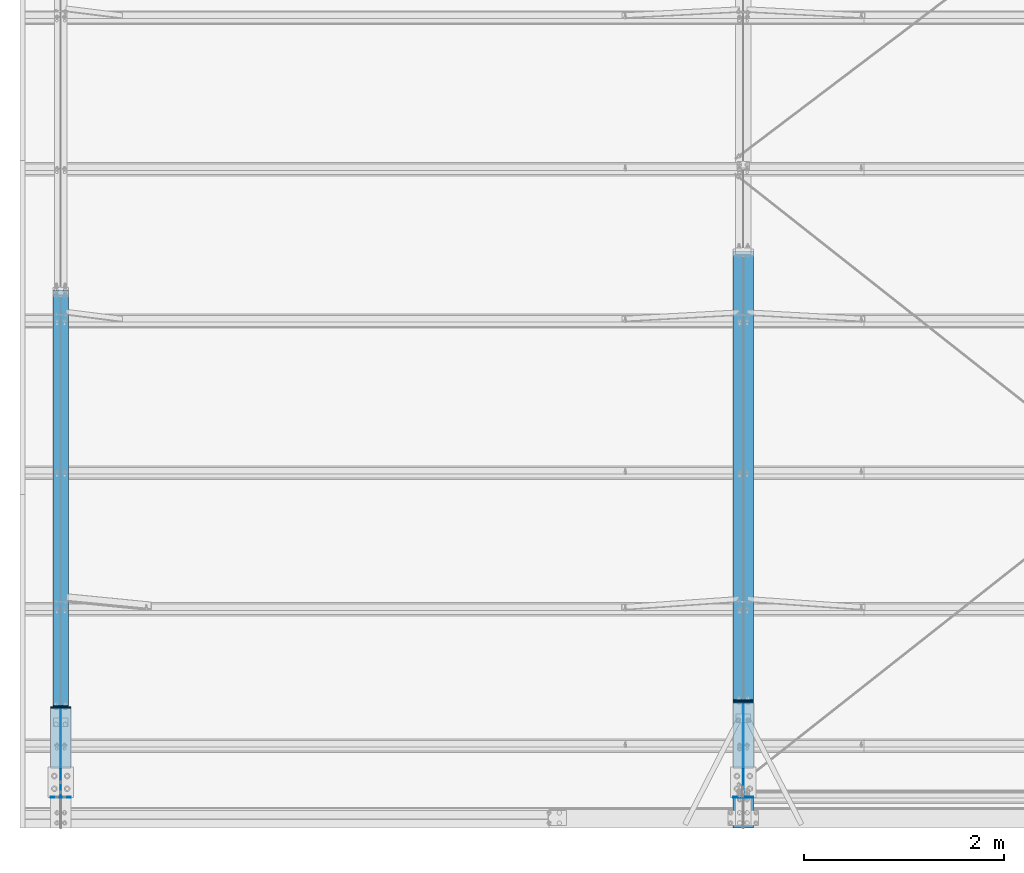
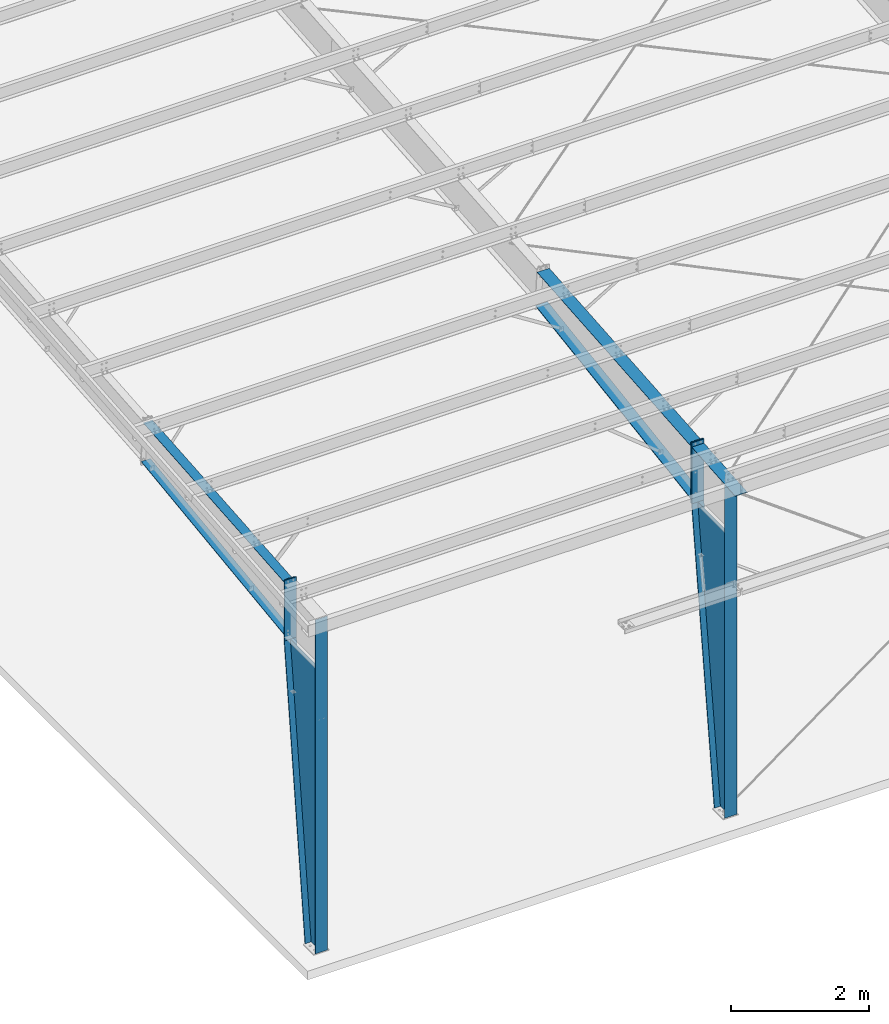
# One storey, part 50 of 185: 15 discrete accessories, 4 elements without a shape of their own.
"""IFC2X3 building model written with IfcOpenShell, lengths in millimetres."""

from ifc_helpers import new_model, si_unit, frame, origin_with_axes, origin_2d_with_axis, place, context, subcontext, project, spatial, rectangle, extrude, clip, halfspace, material, type_object, element, aggregate, save


model = new_model("IFC2X3")

# Units and contexts
model_context = context("Model", 3, precision=1e-05, world=origin_with_axes())
body_context = subcontext(model_context, "Body", "Model", "MODEL_VIEW")
ifc_project = project(units=[si_unit("LENGTHUNIT", "METRE", prefix="MILLI"), si_unit("AREAUNIT", "SQUARE_METRE"), si_unit("VOLUMEUNIT", "CUBIC_METRE"), si_unit("MASSUNIT", "GRAM", prefix="KILO"), si_unit("TIMEUNIT", "SECOND"), si_unit("PLANEANGLEUNIT", "RADIAN"), si_unit("SOLIDANGLEUNIT", "STERADIAN"), si_unit("THERMODYNAMICTEMPERATUREUNIT", "DEGREE_CELSIUS"), si_unit("LUMINOUSINTENSITYUNIT", "LUMEN")], contexts=[model_context])

# Site, building, storey
site_placement = place(None, origin_with_axes())
site = spatial("IfcSite", under=ifc_project, at=site_placement, Name="Undefined", CompositionType="ELEMENT")
building_placement = place(site_placement, origin_with_axes())
building = spatial("IfcBuilding", under=site, at=building_placement, Name="Undefined", CompositionType="ELEMENT")
storey_placement = place(building_placement, origin_with_axes())
storey = spatial("IfcBuildingStorey", under=building, at=storey_placement, Name="Undefined", CompositionType="ELEMENT", Elevation=0.0)

# Assembly, discrete accessory
assembly_1_placement = place(storey_placement, origin_with_axes())
assembly_1 = element("IfcElementAssembly", 1, at=assembly_1_placement, inside=storey, Name="Steel Assembly", AssemblyPlace="NOTDEFINED", PredefinedType="RIGID_FRAME")
ifc_material = material(Name="STEEL/55")
discrete_accessory_type_1 = type_object("IfcDiscreteAccessoryType", Name="Outside Flange")
discrete_accessory_1_placement = place(assembly_1_placement, frame((406.400000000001, 5324.06322384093, 6333.41238029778), z_axis=(1.0, 0.0, 0.0), x_axis=(0.0, -0.996545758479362, -0.0830454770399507)))
discrete_accessory_1 = element("IfcDiscreteAccessory", 2, at=discrete_accessory_1_placement, type_object=discrete_accessory_type_1, material=ifc_material, Name="Outside Flange", ObjectType="FL5/16\"X6\"", context=body_context, shape_type="SweptSolid", body=[
    extrude(rectangle(XDim=7.874, YDim=152.4, at=origin_2d_with_axis()), frame((4112.39146810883, 0.0, 0.0), z_axis=(-1.0, 0.0, 0.0), x_axis=(0.0, -1.0, 0.0)), (0.0, 0.0, 1.0), 4112.4),
])

assembly_2_placement = place(storey_placement, origin_with_axes())
assembly_2 = element("IfcElementAssembly", 3, at=assembly_2_placement, inside=storey, Name="Steel Assembly", AssemblyPlace="NOTDEFINED", PredefinedType="RIGID_FRAME")
discrete_accessory_2_placement = place(assembly_2_placement, frame((406.400000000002, 307.975000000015, 15.8749999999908), z_axis=(0.0, 0.0, 1.0), x_axis=(-1.0, 0.0, 0.0)))
discrete_accessory_2 = element("IfcDiscreteAccessory", 4, at=discrete_accessory_2_placement, type_object=discrete_accessory_type_1, material=ifc_material, Name="Outside Flange", ObjectType="FL1/4\"X8\"", context=body_context, shape_type="SweptSolid", body=[
    extrude(rectangle(XDim=6.35, YDim=203.2, at=origin_2d_with_axis()), frame((0.0, 0.0, 5895.24865466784), z_axis=(0.0, 0.0, -1.0), x_axis=(0.0, 1.0, 0.0)), (0.0, 0.0, 1.0), 5895.2),
])

assembly_3_placement = place(storey_placement, origin_with_axes())
assembly_3 = element("IfcElementAssembly", 5, at=assembly_3_placement, inside=storey, Name="Steel Assembly", AssemblyPlace="NOTDEFINED", PredefinedType="RIGID_FRAME")
discrete_accessory_3_placement = place(assembly_3_placement, frame((7239.0, 5725.77406224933, 6365.28254241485), z_axis=(1.0, 0.0, 0.0), x_axis=(0.0, -0.996545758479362, -0.0830454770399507)))
discrete_accessory_3 = element("IfcDiscreteAccessory", 6, at=discrete_accessory_3_placement, type_object=discrete_accessory_type_1, material=ifc_material, Name="Outside Flange", ObjectType="FL5/16\"X8\"", context=body_context, shape_type="SweptSolid", body=[
    extrude(rectangle(XDim=7.874, YDim=203.2, at=origin_2d_with_axis()), frame((4456.74478612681, 0.0, 0.0), z_axis=(-1.0, 0.0, 0.0), x_axis=(0.0, -1.0, 0.0)), (0.0, 0.0, 1.0), 4456.7),
])

assembly_4_placement = place(storey_placement, origin_with_axes())
assembly_4 = element("IfcElementAssembly", 7, at=assembly_4_placement, inside=storey, Name="Steel Assembly", AssemblyPlace="NOTDEFINED", PredefinedType="RIGID_FRAME")
discrete_accessory_4_placement = place(assembly_4_placement, frame((7239.0, 308.737, 15.875), z_axis=(0.0, 0.0, 1.0), x_axis=(-1.0, 0.0, 0.0)))
discrete_accessory_4 = element("IfcDiscreteAccessory", 8, at=discrete_accessory_4_placement, type_object=discrete_accessory_type_1, material=ifc_material, Name="Outside Flange", ObjectType="FL5/16\"X8\"", context=body_context, shape_type="SweptSolid", body=[
    extrude(rectangle(XDim=7.874, YDim=203.2, at=origin_2d_with_axis()), frame((0.0, 0.0, 5893.64290803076), z_axis=(0.0, 0.0, -1.0), x_axis=(0.0, 1.0, 0.0)), (0.0, 0.0, 1.0), 5893.6),
])

# Discrete accessory
discrete_accessory_type_2 = type_object("IfcDiscreteAccessoryType", Name="Inside Flange")
discrete_accessory_5_placement = place(assembly_1_placement, frame((406.399999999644, 1226.18207892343, 5066.18451539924), z_axis=(-1.0, 0.0, 0.0), x_axis=(0.0, 0.991385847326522, 0.130973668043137)))
discrete_accessory_5 = element("IfcDiscreteAccessory", 9, at=discrete_accessory_5_placement, type_object=discrete_accessory_type_2, material=ifc_material, Name="Inside Flange", ObjectType="PL3/8\"X6\"", context=body_context, shape_type="SweptSolid", body=[
    extrude(rectangle(XDim=9.652, YDim=152.4, at=origin_2d_with_axis()), frame((4193.60346189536, 9.09494701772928e-13, 0.0), z_axis=(-1.0, 0.0, 0.0), x_axis=(0.0, -1.0, 0.0)), (0.0, 0.0, 1.0), 4193.6),
])

discrete_accessory_6_placement = place(assembly_2_placement, frame((406.400000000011, 603.352772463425, 16.6387445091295), z_axis=(-1.0, 0.0, 0.0), x_axis=(0.0, 0.120274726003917, 0.992740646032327)))
discrete_accessory_6 = element("IfcDiscreteAccessory", 10, at=discrete_accessory_6_placement, type_object=discrete_accessory_type_2, material=ifc_material, Name="Inside Flange", ObjectType="FL1/2\"X8\"", context=body_context, shape_type="SweptSolid", body=[
    extrude(rectangle(XDim=12.7, YDim=203.2, at=origin_2d_with_axis()), frame((5014.13368096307, -6.95850832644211e-14, 0.0), z_axis=(-1.0, 0.0, 0.0), x_axis=(0.0, -1.0, 0.0)), (0.0, 0.0, 1.0), 5014.1),
])

discrete_accessory_7_placement = place(assembly_3_placement, frame((7238.99999999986, 1285.04641844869, 5067.34401433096), z_axis=(-1.0, 0.0, 0.0), x_axis=(0.0, 0.988758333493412, 0.149522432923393)))
discrete_accessory_7 = element("IfcDiscreteAccessory", 11, at=discrete_accessory_7_placement, type_object=discrete_accessory_type_2, material=ifc_material, Name="Inside Flange", ObjectType="FL1/2\"X8\"", context=body_context, shape_type="SweptSolid", body=[
    extrude(rectangle(XDim=12.7, YDim=203.2, at=origin_2d_with_axis()), frame((4542.9272168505, 0.0, 0.0), z_axis=(-1.0, 0.0, 0.0), x_axis=(0.0, -1.0, 0.0)), (0.0, 0.0, 1.0), 4542.9),
])

discrete_accessory_8_placement = place(assembly_4_placement, frame((7238.99999999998, 603.414073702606, 16.7042436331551), z_axis=(-1.0, 0.0, 0.0), x_axis=(0.0, 0.130589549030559, 0.991436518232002)))
discrete_accessory_8 = element("IfcDiscreteAccessory", 12, at=discrete_accessory_8_placement, type_object=discrete_accessory_type_2, material=ifc_material, Name="Inside Flange", ObjectType="FL1/2\"X8\"", context=body_context, shape_type="SweptSolid", body=[
    extrude(rectangle(XDim=12.7, YDim=203.2, at=origin_2d_with_axis()), frame((5018.43796554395, 1.39289634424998e-13, 0.0), z_axis=(-1.0, 0.0, 0.0), x_axis=(0.0, -1.0, 0.0)), (0.0, 0.0, 1.0), 5018.4),
])

discrete_accessory_type_3 = type_object("IfcDiscreteAccessoryType", Name="Web")
discrete_accessory_9_placement = place(assembly_2_placement, frame((406.400000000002, 755.650000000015, 15.8749999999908), z_axis=(0.0, 0.0, 1.0), x_axis=(0.0, -1.0, 0.0)))
discrete_accessory_9 = element("IfcDiscreteAccessory", 13, at=discrete_accessory_9_placement, type_object=discrete_accessory_type_3, material=ifc_material, Name="Web", ObjectType="PL3/16\"X35\"", context=body_context, shape_type="Clipping", body=[
    clip(extrude(rectangle(XDim=4.7625, YDim=889.0, at=origin_2d_with_axis()), frame((0.0, 0.0, 4978.67398109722), z_axis=(0.0, 0.0, -1.0), x_axis=(0.0, 1.0, 0.0)), (0.0, 0.0, 1.0), 4978.7), halfspace(frame((444.499999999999, 2.38125000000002, -2358.2652762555), z_axis=(-0.992740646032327, 0.0, -0.120274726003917), x_axis=(-0.120274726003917, 0.0, 0.992740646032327)), False)),
])

discrete_accessory_10_placement = place(assembly_4_placement, frame((7239.0, 782.574, 15.875), z_axis=(0.0, 0.0, 1.0), x_axis=(0.0, -1.0, 0.0)))
discrete_accessory_10 = element("IfcDiscreteAccessory", 14, at=discrete_accessory_10_placement, type_object=discrete_accessory_type_3, material=ifc_material, Name="Web", ObjectType="PL3/16\"X37\"", context=body_context, shape_type="Clipping", body=[
    clip(extrude(rectangle(XDim=4.7625, YDim=939.8, at=origin_2d_with_axis()), frame((0.0, 0.0, 4977.1211511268), z_axis=(0.0, 0.0, -1.0), x_axis=(0.0, 1.0, 0.0)), (0.0, 0.0, 1.0), 4977.1), halfspace(frame((-469.9, -2.38124999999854, 4977.12115112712), z_axis=(-0.991436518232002, 0.0, -0.130589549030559), x_axis=(0.130589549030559, 0.0, -0.991436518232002)), False)),
])

discrete_accessory_type_4 = type_object("IfcDiscreteAccessoryType", Name="Rafter Haunch Plate")
discrete_accessory_11_placement = place(assembly_1_placement, frame((406.400000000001, 1219.20000000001, 6061.34898359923), z_axis=(1.0, 0.0, 0.0), x_axis=(0.0, 0.0, -1.0)))
discrete_accessory_11 = element("IfcDiscreteAccessory", 15, at=discrete_accessory_11_placement, type_object=discrete_accessory_type_4, material=ifc_material, Name="Rafter Haunch Plate", ObjectType="FL1/2\"X6\"", context=body_context, shape_type="SweptSolid", body=[
    extrude(rectangle(XDim=12.7, YDim=152.4, at=origin_2d_with_axis()), frame((1066.80000250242, 0.0, 0.0), z_axis=(-1.0, 0.0, 0.0), x_axis=(0.0, -1.0, 0.0)), (0.0, 0.0, 1.0), 1066.8),
])

aggregate(assembly_1, [discrete_accessory_5, discrete_accessory_11, discrete_accessory_1])

discrete_accessory_12_placement = place(assembly_3_placement, frame((7239.0, 1276.223, 6069.32115112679), z_axis=(1.0, 0.0, 0.0), x_axis=(0.0, 0.0, -1.0)))
discrete_accessory_12 = element("IfcDiscreteAccessory", 16, at=discrete_accessory_12_placement, type_object=discrete_accessory_type_4, material=ifc_material, Name="Rafter Haunch Plate", ObjectType="PL5/8\"X8\"", context=body_context, shape_type="SweptSolid", body=[
    extrude(rectangle(XDim=15.748, YDim=203.2, at=origin_2d_with_axis()), frame((1076.32500219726, 0.0, 0.0), z_axis=(-1.0, 0.0, 0.0), x_axis=(0.0, -1.0, 0.0)), (0.0, 0.0, 1.0), 1076.3),
])

aggregate(assembly_3, [discrete_accessory_3, discrete_accessory_7, discrete_accessory_12])

discrete_accessory_type_5 = type_object("IfcDiscreteAccessoryType", Name="Column Connection Pla")
discrete_accessory_13_placement = place(assembly_2_placement, frame((406.400000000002, 1206.50000000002, 6061.34898359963), z_axis=(1.0, 0.0, 0.0), x_axis=(0.0, 0.0, -1.0)))
discrete_accessory_13 = element("IfcDiscreteAccessory", 17, at=discrete_accessory_13_placement, type_object=discrete_accessory_type_5, material=ifc_material, Name="Column Connection Pla", ObjectType="FL1/2\"X8\"", context=body_context, shape_type="SweptSolid", body=[
    extrude(rectangle(XDim=12.7, YDim=203.2, at=origin_2d_with_axis()), frame((1066.80000250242, 0.0, 0.0), z_axis=(-1.0, 0.0, 0.0), x_axis=(0.0, -1.0, 0.0)), (0.0, 0.0, 1.0), 1066.8),
])

aggregate(assembly_2, [discrete_accessory_13, discrete_accessory_2, discrete_accessory_6, discrete_accessory_9])

discrete_accessory_14_placement = place(assembly_4_placement, frame((7239.0, 1260.4115, 6069.32115222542), z_axis=(1.0, 0.0, 0.0), x_axis=(0.0, 0.0, -1.0)))
discrete_accessory_14 = element("IfcDiscreteAccessory", 18, at=discrete_accessory_14_placement, type_object=discrete_accessory_type_5, material=ifc_material, Name="Column Connection Pla", ObjectType="FL5/8\"X8\"", context=body_context, shape_type="SweptSolid", body=[
    extrude(rectangle(XDim=15.875, YDim=203.2, at=origin_2d_with_axis()), frame((1076.32500219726, 0.0, 0.0), z_axis=(-1.0, 0.0, 0.0), x_axis=(0.0, -1.0, 0.0)), (0.0, 0.0, 1.0), 1076.3),
])

discrete_accessory_type_6 = type_object("IfcDiscreteAccessoryType", Name="Cap Plate")
discrete_accessory_15_placement = place(assembly_4_placement, frame((7239.0, 0.330114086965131, 5888.13429608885), z_axis=(-1.0, 0.0, 0.0), x_axis=(0.0, 0.996545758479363, 0.0830454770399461)))
discrete_accessory_15 = element("IfcDiscreteAccessory", 19, at=discrete_accessory_15_placement, type_object=discrete_accessory_type_6, material=ifc_material, Name="Cap Plate", ObjectType="FL5/16\"X8\"", context=body_context, shape_type="SweptSolid", body=[
    extrude(rectangle(XDim=7.9502, YDim=203.2, at=origin_2d_with_axis()), frame((1256.15282737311, 0.0, 0.0), z_axis=(-1.0, 0.0, 0.0), x_axis=(0.0, -1.0, 0.0)), (0.0, 0.0, 1.0), 1256.2),
])

aggregate(assembly_4, [discrete_accessory_14, discrete_accessory_15, discrete_accessory_4, discrete_accessory_8, discrete_accessory_10])

save(model, "model.ifc")
